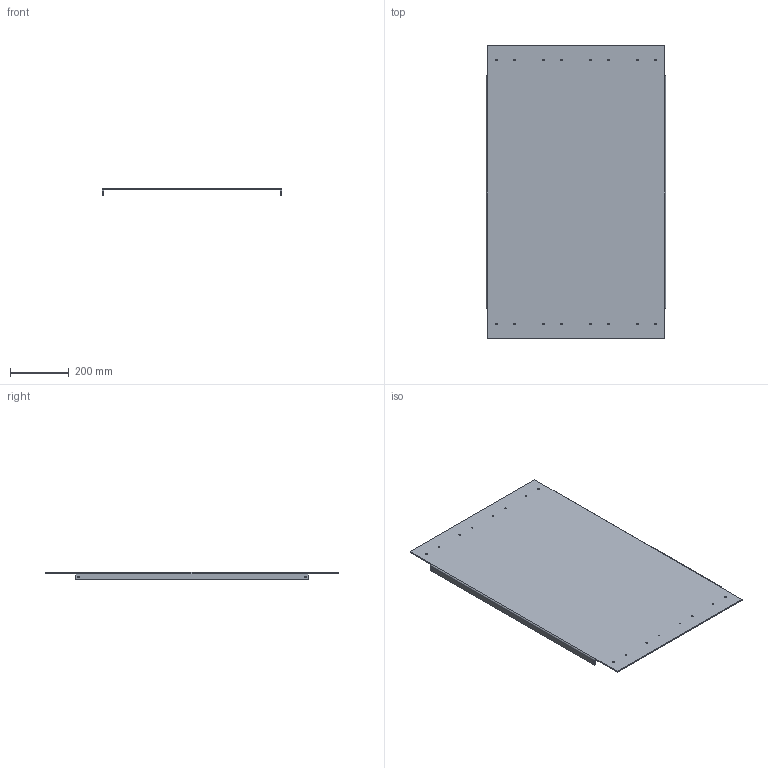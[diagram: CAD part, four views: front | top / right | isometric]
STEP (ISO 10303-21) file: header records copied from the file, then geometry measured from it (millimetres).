
FILE_DESCRIPTION(('HOOPS Exchange Step'),'2;1');
FILE_NAME('/private/var/mobile/Containers/Data/Application/E4481369-A8C6-45C6-A958-B1853E49479D/tmp/export/temp_export','2021-04-12T21:07:21+00:00',('mobile'),('Shapr3D Limited'),'HOOPS Exchange 2020.2','Shapr3D','Authorized');
FILE_SCHEMA( ('AP203_CONFIGURATION_CONTROLLED_3D_DESIGN_OF_MECHANICAL_PARTS_AND_ASSEMBLIES_MIM_LF') );
Length unit declared in the file: millimetre
Products named in the file (2): 0; /private/var/mobile/Containers/Data/Application/E4481369-A8C6-45C6-A958-B1853E49479D/tmp/EA450CB5-9095-4692-83A1-C5234FF54FE5.tmp
Assembly tree (1 placements, depth 2):
  /private/var/mobile/Containers/Data/Application/E4481369-A8C6-45C6-A958-B1853E49479D/tmp/EA450CB5-9095-4692-83A1-C5234FF54FE5.tmp
    0
Bounding box: 610 x 1000 x 24 mm (x, y, z)
Volume: 2548535.9 mm3; surface area: 1288740.5 mm2
Topology: 1 solids, 1 shells, 50 faces, 160 edges, 112 vertices
Faces by surface type: cylinder 32, plane 18
Full cylindrical faces by diameter (mm): 5.2 x20
Entity records: 1967 total; most frequent: DIRECTION 354, CARTESIAN_POINT 325, ORIENTED_EDGE 320, EDGE_CURVE 160, AXIS2_PLACEMENT_3D 141, VERTEX_POINT 112, EDGE_LOOP 90, FACE_BOUND 90
